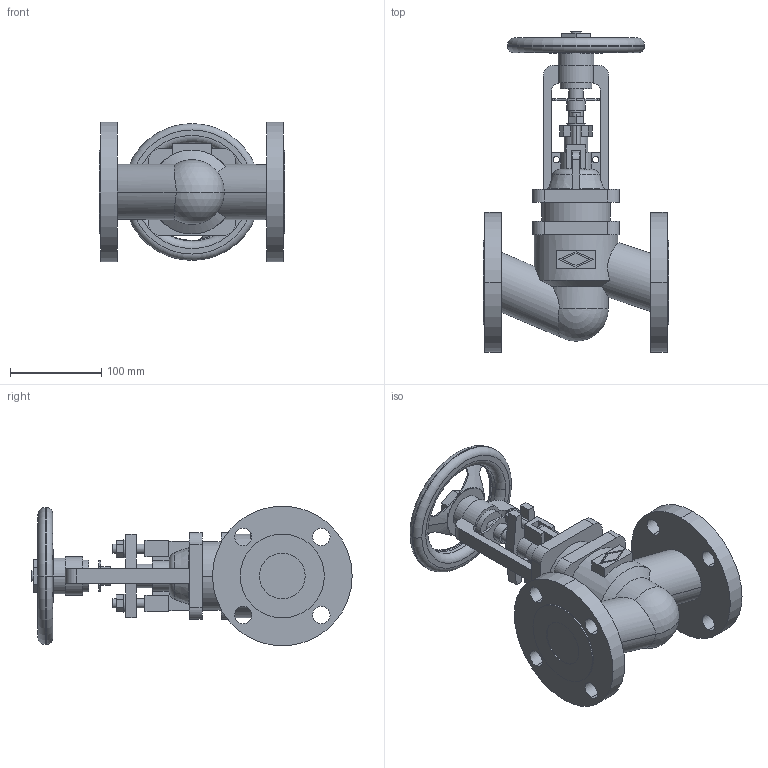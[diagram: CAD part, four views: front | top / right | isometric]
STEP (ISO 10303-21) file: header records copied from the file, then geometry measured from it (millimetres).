
FILE_DESCRIPTION(('OneSpaceDesigner STEP Export'),'2;1');
FILE_NAME('c000004206.stp','2010-04-30T 8:19:21',(''),(''),'OneSpace Designer STEP processor for AP214 (Solid Model)','OneSpace Modeling 15.50B 03-Nov-2007 (C) CoCreate Software GmbH','');
FILE_SCHEMA(('AUTOMOTIVE_DESIGN { 1 0 10303 214 1 1 1 1 }'));
Length unit declared in the file: millimetre
Products named in the file (1): 1
Bounding box: 203 x 350.9 x 153 mm (x, y, z)
Volume: 2223232.6 mm3; surface area: 256610.4 mm2
Topology: 1 solids, 1 shells, 285 faces, 764 edges, 503 vertices
Faces by surface type: plane 140, cylinder 113, torus 18, cone 12, sphere 2
Entity records: 11388 total; most frequent: CARTESIAN_POINT 2302, ORIENTED_EDGE 1516, DIRECTION 1269, EDGE_CURVE 758, VERTEX_POINT 499, AXIS2_PLACEMENT_3D 433, VECTOR 403, LINE 403
